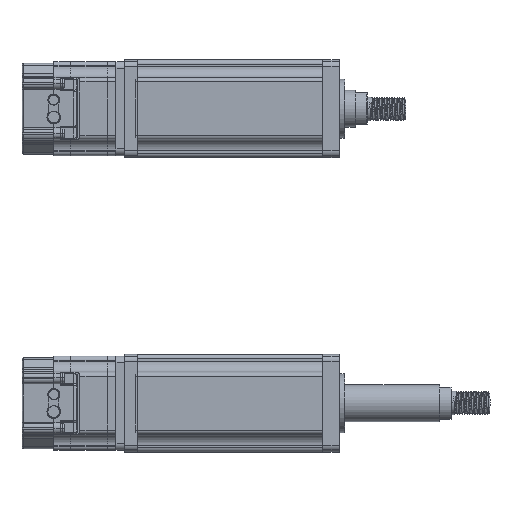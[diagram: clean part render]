
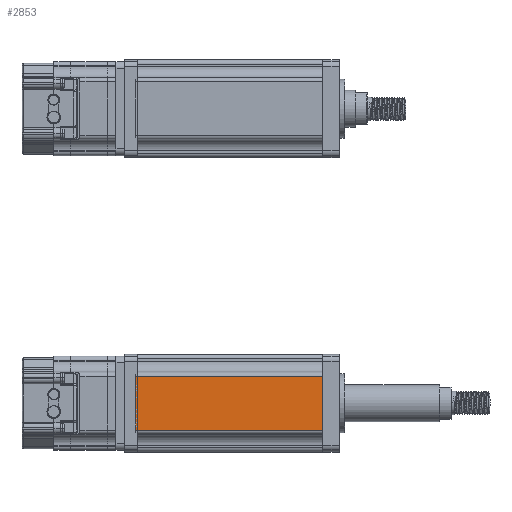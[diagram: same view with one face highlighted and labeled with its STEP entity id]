
A CAD part, top view. The second image highlights one B-rep face of the part: STEP entity #2853.
In plain terms, the highlighted planar face has unit normal (0, 0, 1).
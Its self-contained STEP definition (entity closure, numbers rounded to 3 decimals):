
#2853=ADVANCED_FACE('',(#7027),#7028,.F.);
#7027=FACE_OUTER_BOUND('',#15176,.T.);
#7028=PLANE('',#15177);
#15176=EDGE_LOOP('',(#30185,#30186,#30187,#30188));
#15177=AXIS2_PLACEMENT_3D('',#30189,#30190,#30191);
#30185=ORIENTED_EDGE('',*,*,#46522,.F.);
#30186=ORIENTED_EDGE('',*,*,#45807,.F.);
#30187=ORIENTED_EDGE('',*,*,#46523,.F.);
#30188=ORIENTED_EDGE('',*,*,#46524,.F.);
#30189=CARTESIAN_POINT('',(602.628,7.655,13.684));
#30190=DIRECTION('',(0.,0.,-1.0));
#30191=DIRECTION('',(1.0,0.,0.));
#45807=EDGE_CURVE('',#53421,#53423,#53424,.T.);
#46522=EDGE_CURVE('',#53423,#54644,#54645,.T.);
#46523=EDGE_CURVE('',#54646,#53421,#54647,.T.);
#46524=EDGE_CURVE('',#54644,#54646,#54648,.T.);
#53421=VERTEX_POINT('',#67292);
#53423=VERTEX_POINT('',#67294);
#53424=LINE('',#67295,#67296);
#54644=VERTEX_POINT('',#76266);
#54645=LINE('',#76267,#76268);
#54646=VERTEX_POINT('',#76269);
#54647=LINE('',#76270,#76271);
#54648=LINE('',#76272,#76273);
#67292=CARTESIAN_POINT('',(714.,7.655,13.684));
#67294=CARTESIAN_POINT('',(714.,-24.345,13.684));
#67295=CARTESIAN_POINT('',(714.,-8.345,13.684));
#67296=VECTOR('',#106517,1.0);
#76266=CARTESIAN_POINT('',(602.628,-24.345,13.684));
#76267=CARTESIAN_POINT('',(658.314,-24.345,13.684));
#76268=VECTOR('',#107308,0.696);
#76269=CARTESIAN_POINT('',(602.628,7.655,13.684));
#76270=CARTESIAN_POINT('',(658.314,7.655,13.684));
#76271=VECTOR('',#107309,0.696);
#76272=CARTESIAN_POINT('',(602.628,-8.345,13.684));
#76273=VECTOR('',#107310,1.0);
#106517=DIRECTION('',(0.,-1.0,0.0));
#107308=DIRECTION('',(-1.0,0.,0.));
#107309=DIRECTION('',(1.0,0.,0.));
#107310=DIRECTION('',(0.,1.0,0.0));
